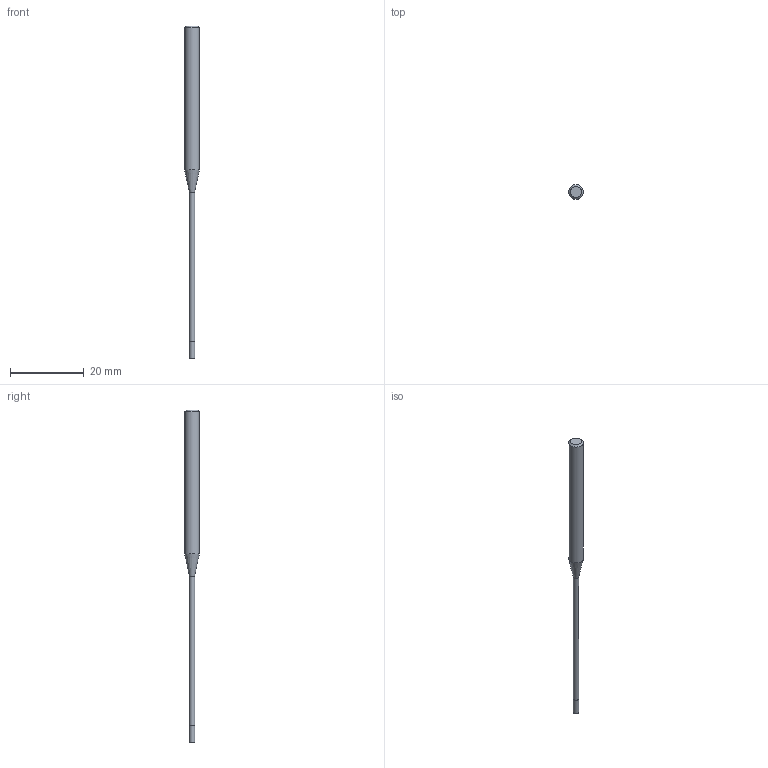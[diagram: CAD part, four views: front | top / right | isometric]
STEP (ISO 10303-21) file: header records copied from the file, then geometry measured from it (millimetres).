
FILE_DESCRIPTION((''),'2;1');
FILE_NAME('C:\Users\nsx150\Desktop\RSE230_20210427\01-00644-01545 RSE230 D1_5X4_5X45.step','2021-05-07T14:53:34',(''),(''),'STEP Write','Mastercam 2021 ... CNC Software, Inc.','');
FILE_SCHEMA(('AUTOMOTIVE_DESIGN'));
Length unit declared in the file: millimetre
Products named in the file (1): None
Bounding box: 4 x 4 x 90 mm (x, y, z)
Volume: 601 mm3; surface area: 762 mm2
Topology: 2 solids, 2 shells, 9 faces, 12 edges, 7 vertices
Faces by surface type: plane 4, cylinder 3, cone 2
Full cylindrical faces by diameter (mm): 1.45 x1, 1.5 x1, 4 x1
Entity records: 211 total; most frequent: DIRECTION 36, CARTESIAN_POINT 25, AXIS2_PLACEMENT_3D 18, ORIENTED_EDGE 14, EDGE_LOOP 14, STYLED_ITEM 12, ADVANCED_FACE 9, FACE_BOUND 8
